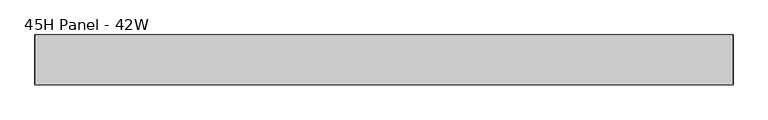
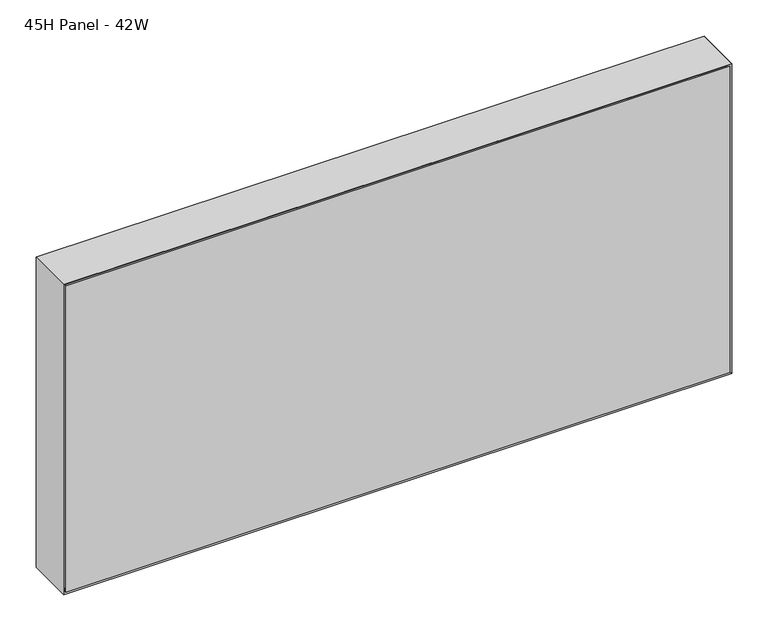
"""IFC4 building model written with IfcOpenShell, lengths in millimetres: furniture geometry, Steelcase - Montage - Frame - 20H - Enhanced Standard - Single Stack-On : 45H Panel - 42W."""

from ifc_helpers import new_model, si_unit, frame, origin, place, context, project, spatial, polyline, outline, extrude, faceted_brep, source, transform, mapped, element, save


def furniture_45h_panel_42w_c844cb22(model_context):
    return source(origin(), model_context, "Body", "SolidModel", [
        faceted_brep([(1057.2750027, 31.7500194, 1650.9999516), (9.5250028, 31.7500194, 1650.9999516), (9.5250028, 31.7500194, 1146.175), (1057.2750027, 31.7500194, 1146.175), (1063.625, 38.1000194, 1657.3499516), (1063.625, 38.1000194, 1139.825), (3.175, 38.1000194, 1139.825), (3.175, 38.1000194, 1657.3499516)], [[[0, 1, 2, 3]], [[4, 5, 6, 7]], [[4, 0, 3, 5]], [[5, 3, 2, 6]], [[6, 2, 1, 7]], [[7, 1, 0, 4]]]),
        faceted_brep([(1057.2750027, -31.7500194, 1650.9999516), (1057.2750027, -31.7500194, 1146.175), (9.5250028, -31.7500194, 1146.175), (9.5250028, -31.7500194, 1650.9999516), (1063.625, -38.1000194, 1657.3499516), (3.175, -38.1000194, 1657.3499516), (3.175, -38.1000194, 1139.825), (1063.625, -38.1000194, 1139.825)], [[[0, 1, 2, 3]], [[4, 5, 6, 7]], [[4, 7, 1, 0]], [[7, 6, 2, 1]], [[6, 5, 3, 2]], [[5, 4, 0, 3]]]),
        faceted_brep([(1066.8, -38.1000015, 1136.65), (1066.8, 38.1000015, 1136.65), (1066.8, 38.1000015, 1660.5249516), (1066.8, -38.1000106, 1660.5249515), (0.0, 38.1000015, 1136.65), (0.0, -38.1000015, 1136.65), (0.0, -38.1000015, 1660.5249516), (0.0, 38.1000015, 1660.5249516), (6.3500484, 31.749953, 1143.0000484), (1060.4499879, 31.749953, 1143.0000484), (6.35, -31.749953, 1143.0000484), (1060.4499879, -31.749953, 1143.0000484), (6.3500165, 31.749985, 1654.174935), (6.3500006, -31.7500009, 1654.1749031), (1060.4499879, -31.7499979, 1654.1749031), (1060.4499879, 31.7499889, 1654.1749394)], [[[0, 1, 2, 3]], [[4, 5, 6, 7]], [[1, 0, 5, 4]], [[1, 4, 8, 9]], [[9, 8, 10, 11]], [[5, 0, 11, 10]], [[4, 7, 12, 8]], [[6, 5, 10, 13]], [[10, 8, 12, 13]], [[9, 11, 14, 15]], [[0, 3, 14, 11]], [[2, 1, 9, 15]], [[3, 2, 15, 14]], [[7, 6, 13, 12]]]),
        faceted_brep([(1066.8, -38.1000015, 1660.5249516), (0.0, -38.1000015, 1660.5249516), (6.3500484, -31.749953, 1654.1749031), (1060.4499516, -31.749953, 1654.1749031), (6.3500484, 31.749953, 1654.1749031), (1060.4499516, 31.749953, 1654.1749031), (0.0, 38.1000015, 1660.5249516), (1066.8, 38.1000015, 1660.5249516)], [[[0, 1, 2, 3]], [[3, 2, 4, 5]], [[6, 7, 5, 4]], [[1, 0, 7, 6]], [[2, 1, 6, 4]], [[0, 3, 5, 7]]]),
        extrude(outline(polyline([(1060.4499879, 31.7500016), (1060.4499879, -31.7499985), (6.35, -31.7499985), (6.35, 31.7500016), (1060.4499879, 31.7500016)])), frame((0.0, 0.0, 1142.9952145), z_axis=(0.0, 0.0, 1.0), x_axis=(1.0, 0.0, 0.0)), (0.0, 0.0, 1.0), 511.1796886),
    ])


if __name__ == "__main__":
    model = new_model("IFC4")
    model_context = context("Model", 3, world=origin())
    ifc_project = project(units=[si_unit("LENGTHUNIT", "METRE", prefix="MILLI")], contexts=[model_context])
    site = spatial("IfcSite", under=ifc_project)
    building = spatial("IfcBuilding", under=site)
    placement = place(None, origin())
    furniture_45h_panel_42w_shape = furniture_45h_panel_42w_c844cb22(model_context)
    element("IfcFurniture", 1, ObjectType="Steelcase - Montage - Frame - 20H - Enhanced Standard - Single Stack-On : 45H Panel - 42W", at=placement, inside=building, context=model_context, shape_type="MappedRepresentation", body=[
        mapped(furniture_45h_panel_42w_shape, transform((0.0, 0.0, 0.0), x_axis=(1.0, 0.0, 0.0), y_axis=(0.0, 1.0, 0.0), z_axis=(0.0, 0.0, 1.0))),
    ])
    save(model, "model.ifc")
